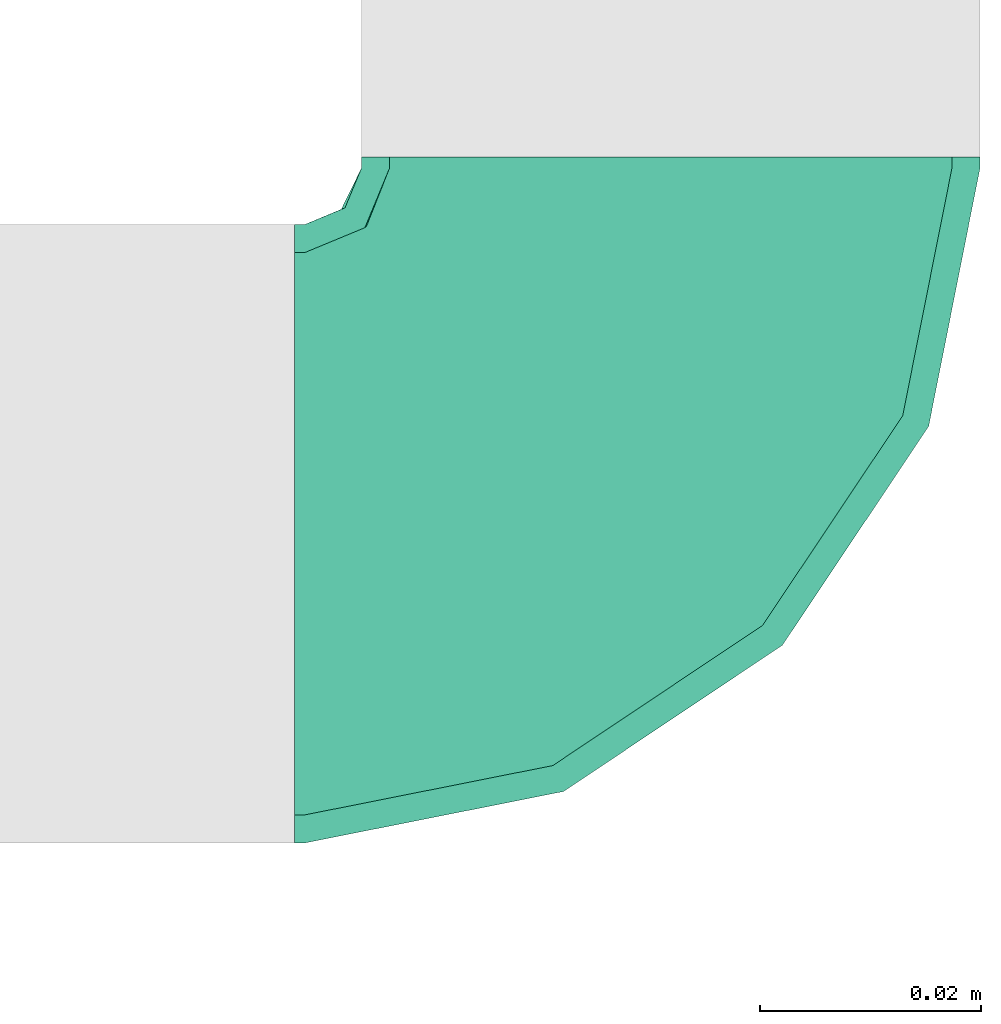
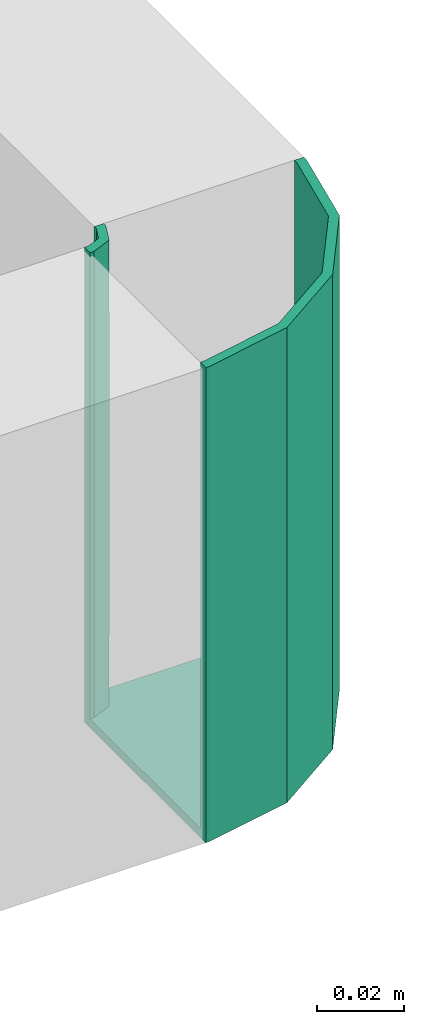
# One storey, part 9 of 9: 1 flow fitting.
"""IFC2X3 building model written with IfcOpenShell, lengths in metres."""

from ifc_helpers import new_model, entity, si_unit, converted_unit, derived_unit, direction, frame, origin, place, context, subcontext, project, spatial, faceted_brep, source, transform, mapped, type_object, type_shapes, element, save


model = new_model("IFC2X3")

# Units and contexts
model_context = context("Model", 3, precision=1e-05, world=origin(), true_north=direction((6.12303176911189e-17, 1.0)))
body_context = subcontext(model_context, "Body", "Model", "MODEL_VIEW")
ifc_project = project(units=[si_unit("LENGTHUNIT", "METRE"), si_unit("AREAUNIT", "SQUARE_METRE"), si_unit("VOLUMEUNIT", "CUBIC_METRE"), converted_unit("PLANEANGLEUNIT", "DEGREE", entity("IfcRatioMeasure", 0.0174532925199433), si_unit("PLANEANGLEUNIT", "RADIAN"), dimensions=[0, 0, 0, 0, 0, 0, 0]), si_unit("MASSUNIT", "GRAM", prefix="KILO"), derived_unit("MASSDENSITYUNIT", [(si_unit("MASSUNIT", "GRAM", prefix="KILO"), 1), (si_unit("LENGTHUNIT", "METRE"), -3)]), si_unit("TIMEUNIT", "SECOND"), si_unit("FREQUENCYUNIT", "HERTZ"), si_unit("THERMODYNAMICTEMPERATUREUNIT", "DEGREE_CELSIUS"), derived_unit("THERMALTRANSMITTANCEUNIT", [(si_unit("MASSUNIT", "GRAM", prefix="KILO"), 1), (si_unit("THERMODYNAMICTEMPERATUREUNIT", "KELVIN"), -1), (si_unit("TIMEUNIT", "SECOND"), -3)]), derived_unit("VOLUMETRICFLOWRATEUNIT", [(si_unit("LENGTHUNIT", "METRE"), 3), (si_unit("TIMEUNIT", "SECOND"), -1)]), si_unit("ELECTRICCURRENTUNIT", "AMPERE"), si_unit("ELECTRICVOLTAGEUNIT", "VOLT"), si_unit("POWERUNIT", "WATT"), si_unit("FORCEUNIT", "NEWTON"), si_unit("ILLUMINANCEUNIT", "LUX"), si_unit("LUMINOUSFLUXUNIT", "LUMEN"), si_unit("LUMINOUSINTENSITYUNIT", "CANDELA"), derived_unit("USERDEFINED", [(si_unit("MASSUNIT", "GRAM", prefix="KILO"), -1), (si_unit("LENGTHUNIT", "METRE"), -2), (si_unit("TIMEUNIT", "SECOND"), 3), (si_unit("LUMINOUSFLUXUNIT", "LUMEN"), 1)]), derived_unit("LINEARVELOCITYUNIT", [(si_unit("LENGTHUNIT", "METRE"), 1), (si_unit("TIMEUNIT", "SECOND"), -1)]), si_unit("PRESSUREUNIT", "PASCAL"), derived_unit("USERDEFINED", [(si_unit("LENGTHUNIT", "METRE"), -2), (si_unit("MASSUNIT", "GRAM", prefix="KILO"), 1), (si_unit("TIMEUNIT", "SECOND"), -2)])], contexts=[model_context])

# Site, building, storey
site_placement = place(None, origin())
site = spatial("IfcSite", under=ifc_project, at=site_placement, Name="Default", CompositionType="ELEMENT")
building_placement = place(site_placement, origin())
building = spatial("IfcBuilding", under=site, at=building_placement, CompositionType="ELEMENT")
storey_placement = place(building_placement, frame((0.0, 0.0, -0.0599999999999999)))
storey = spatial("IfcBuildingStorey", under=building, at=storey_placement, Name="S01", CompositionType="ELEMENT", Elevation=-0.0599999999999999)

# Flow fitting
cable_carrier_fitting_type = type_object("IfcCableCarrierFittingType", Name="E_Bend_Horizontal_CA_Generic_MEPcontent", PredefinedType="NOTDEFINED")
shared_shape = source(origin(), body_context, "Body", "Brep", [
    faceted_brep([(-0.0279999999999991, 0.03307999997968, -0.067), (-0.0279999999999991, 0.03307999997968, -0.0276504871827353), (-0.0279999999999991, 0.03307999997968, 0.0116990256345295), (-0.0279999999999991, 0.03307999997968, 0.0473252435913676), (-0.0279999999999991, 0.03307999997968, 0.067), (-0.0254600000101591, 0.03307999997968, 0.067), (-0.0254600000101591, 0.03307999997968, 0.0188068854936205), (-0.0254600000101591, 0.03307999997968, -0.0162668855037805), (-0.0254600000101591, 0.03307999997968, -0.06446000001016), (0.0254600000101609, 0.0330799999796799, -0.06446000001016), (0.0254600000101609, 0.0330799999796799, 0.067), (0.0280000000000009, 0.0330799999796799, 0.067), (0.0280000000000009, 0.0330799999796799, -0.067), (-0.0330799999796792, -0.028, -0.067), (-0.0330799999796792, -0.028, 0.067), (-0.0330799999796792, -0.02546000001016, 0.067), (-0.0330799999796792, -0.02546000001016, -0.06446000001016), (-0.0330799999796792, 0.02546000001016, -0.06446000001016), (-0.0330799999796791, 0.02546000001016, 0.00126998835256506), (-0.0330799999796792, 0.02546000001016, 0.067), (-0.0330799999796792, 0.028, 0.067), (-0.0330799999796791, 0.028, 0.0276504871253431), (-0.0330799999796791, 0.028, 0.0), (-0.0330799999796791, 0.028, -0.0276504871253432), (-0.0330799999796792, 0.028, -0.067), (-0.0294878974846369, 0.0294878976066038, -0.0138252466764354), (-0.0294694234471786, 0.0295064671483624, 0.0369500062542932), (-0.0299743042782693, 0.0290599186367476, -0.0404126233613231), (-0.0294878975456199, 0.0294878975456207, -0.067), (-0.0294878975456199, 0.0294878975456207, 0.067), (-0.0276918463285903, 0.0276918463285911, 0.067), (-0.0213928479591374, -0.0256752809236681, 0.067), (-0.00970569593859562, -0.0233505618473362, 0.067), (0.000202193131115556, -0.0167303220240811, 0.067), (0.0101100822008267, -0.010110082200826, 0.067), (0.0167303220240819, -0.000202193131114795, 0.067), (0.023350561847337, 0.00970569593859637, 0.067), (0.0256752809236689, 0.0213928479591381, 0.067), (0.0232319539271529, 0.0218788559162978, 0.067), (0.0210039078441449, 0.0106777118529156, 0.067), (0.014658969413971, 0.00118184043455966, 0.067), (0.0083140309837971, -0.00831403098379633, 0.067), (-0.00118184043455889, -0.0146589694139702, 0.067), (-0.0106777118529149, -0.0210039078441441, 0.067), (-0.021878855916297, -0.0232319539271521, 0.067), (-0.0276918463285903, 0.0276918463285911, -0.06446000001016), (-0.0275154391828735, 0.0278742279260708, 0.00127000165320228), (-0.021878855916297, -0.0232319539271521, -0.06446000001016), (-0.0106777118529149, -0.0210039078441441, -0.06446000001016), (-0.00118184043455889, -0.0146589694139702, -0.06446000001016), (0.0083140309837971, -0.00831403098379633, -0.06446000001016), (0.014658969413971, 0.00118184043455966, -0.06446000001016), (0.0210039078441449, 0.0106777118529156, -0.06446000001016), (0.0234476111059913, 0.0229630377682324, -0.06446000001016), (-0.0213928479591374, -0.0256752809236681, -0.067), (-0.00970569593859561, -0.0233505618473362, -0.067), (0.00020219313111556, -0.0167303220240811, -0.067), (0.0101100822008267, -0.010110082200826, -0.067), (0.0258958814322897, 0.0225018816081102, -0.067), (0.023350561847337, 0.00970569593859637, -0.067), (0.0167303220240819, -0.000202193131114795, -0.067)], [[[0, 1, 2, 3, 4, 5, 6, 7, 8, 9, 10, 11, 12]], [[13, 14, 15, 16, 17, 18, 19, 20, 21, 22, 23, 24]], [[22, 25, 23]], [[26, 22, 21, 20]], [[2, 25, 26]], [[25, 2, 1]], [[27, 28, 24]], [[22, 26, 25]], [[27, 1, 0]], [[26, 20, 29]], [[23, 25, 27]], [[1, 27, 25]], [[3, 26, 29]], [[29, 4, 3]], [[26, 3, 2]], [[23, 27, 24]], [[0, 28, 27]], [[19, 30, 5, 4, 29, 20]], [[15, 14, 31, 32, 33, 34, 35, 36, 37, 11, 10, 38, 39, 40, 41, 42, 43, 44]], [[45, 8, 7]], [[6, 5, 30]], [[46, 30, 18]], [[30, 46, 6]], [[30, 19, 18]], [[18, 17, 45]], [[46, 45, 7]], [[45, 46, 18]], [[6, 46, 7]], [[45, 17, 16, 47, 48, 49, 50, 51, 52, 53, 9, 8]], [[15, 44, 43, 48, 47, 16]], [[50, 49, 48, 43, 42, 41]], [[38, 10, 9, 53, 52, 39]], [[52, 51, 50, 41, 40, 39]], [[13, 54, 55, 32, 31, 14]], [[34, 33, 32, 55, 56, 57]], [[58, 12, 11, 37, 36, 59]], [[36, 35, 34, 57, 60, 59]], [[55, 54, 13, 24, 28, 0, 12, 58, 59, 60, 57, 56]]]),
    faceted_brep([(0.0280000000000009, 0.0330799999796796, -0.067), (0.0280000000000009, 0.0330799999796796, 0.067), (0.0254600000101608, 0.0330799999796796, 0.067), (0.0254600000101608, 0.0330799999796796, -0.06446000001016), (-0.0254600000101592, 0.0330799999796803, -0.06446000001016), (-0.0254600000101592, 0.0330799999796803, 0.067), (-0.0279999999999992, 0.0330799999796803, 0.067), (-0.0279999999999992, 0.0330799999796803, -0.067), (0.0280000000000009, 0.0340799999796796, -0.067), (-0.0279999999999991, 0.0340799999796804, -0.067), (-0.0279999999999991, 0.0340799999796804, 0.067), (-0.0254600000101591, 0.0340799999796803, 0.067), (-0.0254600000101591, 0.0340799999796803, -0.06446000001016), (0.0254600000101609, 0.0340799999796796, -0.06446000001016), (0.0254600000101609, 0.0340799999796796, 0.067), (0.0280000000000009, 0.0340799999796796, 0.067)], [[[0, 1, 2, 3, 4, 5, 6, 7]], [[8, 9, 10, 11, 12, 13, 14, 15]], [[1, 0, 8, 15]], [[2, 1, 15, 14]], [[3, 2, 14, 13]], [[4, 3, 13, 12]], [[5, 4, 12, 11]], [[6, 5, 11, 10]], [[7, 6, 10, 9]], [[0, 7, 9, 8]]]),
    faceted_brep([(-0.0330799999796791, 0.028, -0.067), (-0.0330799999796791, 0.028, 0.067), (-0.0330799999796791, 0.02546000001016, 0.067), (-0.0330799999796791, 0.02546000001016, -0.06446000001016), (-0.0330799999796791, -0.02546000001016, -0.06446000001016), (-0.0330799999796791, -0.02546000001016, 0.067), (-0.0330799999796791, -0.028, 0.067), (-0.0330799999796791, -0.028, -0.067), (-0.0340799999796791, 0.028, -0.067), (-0.0340799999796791, -0.028, -0.067), (-0.0340799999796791, -0.028, 0.067), (-0.0340799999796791, -0.02546000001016, 0.067), (-0.0340799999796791, -0.02546000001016, -0.06446000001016), (-0.0340799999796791, 0.02546000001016, -0.06446000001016), (-0.0340799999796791, 0.02546000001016, 0.067), (-0.0340799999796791, 0.028, 0.067)], [[[0, 1, 2, 3, 4, 5, 6, 7]], [[8, 9, 10, 11, 12, 13, 14, 15]], [[1, 0, 8, 15]], [[2, 1, 15, 14]], [[3, 2, 14, 13]], [[4, 3, 13, 12]], [[5, 4, 12, 11]], [[6, 5, 11, 10]], [[7, 6, 10, 9]], [[0, 7, 9, 8]]]),
])
type_shapes(cable_carrier_fitting_type, [shared_shape])
flow_fitting_placement = place(storey_placement, frame((69.5424377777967, -193.205069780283, 0.367)))
element("IfcFlowFitting", 1, at=flow_fitting_placement, inside=storey, type_object=cable_carrier_fitting_type, Name="E_Bend_Horizontal_CA_Generic_MEPcontent:E_Bend_Horizontal_CA_Generic_MEPcontent", ObjectType="E_Bend_Horizontal_CA_Generic_MEPcontent:E_Bend_Horizontal_CA_Generic_MEPcontent", context=body_context, shape_type="MappedRepresentation", body=[
    mapped(shared_shape, transform((0.0, 0.0, 0.0), scale=1.0)),
])

save(model, "model.ifc")
